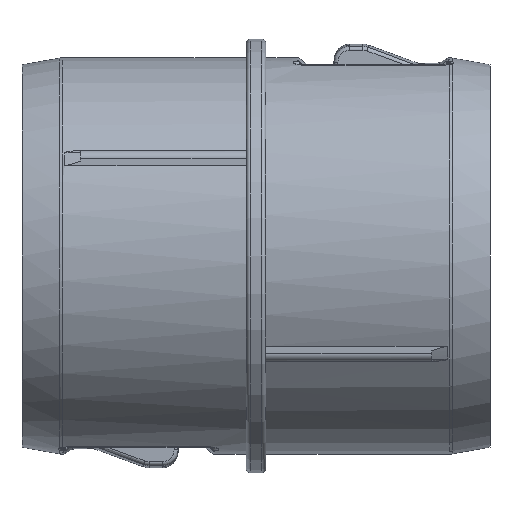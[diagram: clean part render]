
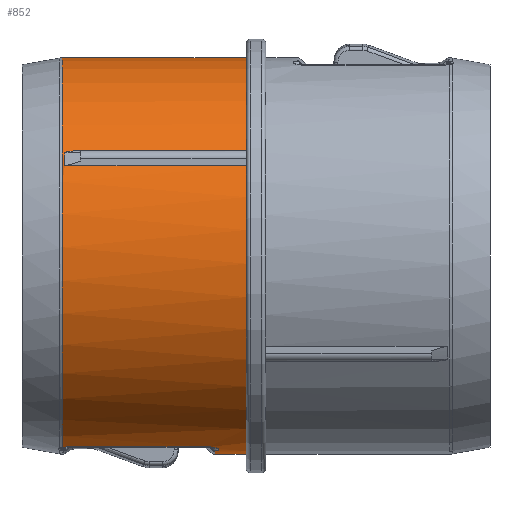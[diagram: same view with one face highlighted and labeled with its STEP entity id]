
A CAD part, front view. The second image highlights one B-rep face of the part: STEP entity #852.
In plain terms, the highlighted cylindrical face has radius 12.7 mm (diameter 25.4 mm), a partial arc.
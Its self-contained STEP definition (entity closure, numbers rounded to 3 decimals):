
#72 = VECTOR ( 'NONE', #1669, 1000. ) ;
#85 = CARTESIAN_POINT ( 'NONE',  ( -2.734, -3.342, -12.253 ) ) ;
#117 = CARTESIAN_POINT ( 'NONE',  ( -4.223, 0., 0. ) ) ;
#260 = ORIENTED_EDGE ( 'NONE', *, *, #6824, .F. ) ;
#310 = CIRCLE ( 'NONE', #6149, 12.7 ) ;
#413 = CARTESIAN_POINT ( 'NONE',  ( -2.46, -2.412, -12.47 ) ) ;
#612 = CARTESIAN_POINT ( 'NONE',  ( -12.25, -10.843, 6.612 ) ) ;
#664 = B_SPLINE_CURVE_WITH_KNOTS ( 'NONE', 3,
 ( #6945, #7684, #85, #807, #3836, #7109, #2121, #413, #8843, #8786 ),
 .UNSPECIFIED., .F., .F.,
 ( 4, 2, 2, 2, 4 ),
 ( 0., 0., 0.001, 0.001, 0.002 ),
 .UNSPECIFIED. ) ;
#692 = CARTESIAN_POINT ( 'NONE',  ( -12.25, -10.843, 6.612 ) ) ;
#745 = DIRECTION ( 'NONE',  ( 1., 0., 0. ) ) ;
#780 = ORIENTED_EDGE ( 'NONE', *, *, #10400, .T. ) ;
#807 = CARTESIAN_POINT ( 'NONE',  ( -2.519, -3.175, -12.297 ) ) ;
#852 = ADVANCED_FACE ( 'NONE', ( #1159 ), #9441, .T. ) ;
#991 = CARTESIAN_POINT ( 'NONE',  ( -5.625, -10.764, 6.74 ) ) ;
#1033 = CARTESIAN_POINT ( 'NONE',  ( -3.005, -3.389, -12.239 ) ) ;
#1159 = FACE_OUTER_BOUND ( 'NONE', #9011, .T. ) ;
#1190 = LINE ( 'NONE', #7180, #1201 ) ;
#1201 = VECTOR ( 'NONE', #3555, 1000. ) ;
#1290 = DIRECTION ( 'NONE',  ( 0., 0., 1. ) ) ;
#1297 = CIRCLE ( 'NONE', #10337, 12.7 ) ;
#1338 = CARTESIAN_POINT ( 'NONE',  ( -0.625, 0., 0. ) ) ;
#1352 = ORIENTED_EDGE ( 'NONE', *, *, #8170, .T. ) ;
#1433 = VECTOR ( 'NONE', #7656, 1000. ) ;
#1436 = ORIENTED_EDGE ( 'NONE', *, *, #9193, .T. ) ;
#1464 = CIRCLE ( 'NONE', #9809, 12.7 ) ;
#1669 = DIRECTION ( 'NONE',  ( -1., 0., 0. ) ) ;
#1940 = VERTEX_POINT ( 'NONE', #6287 ) ;
#2051 = CARTESIAN_POINT ( 'NONE',  ( -4.223, -11.312, 5.773 ) ) ;
#2121 = CARTESIAN_POINT ( 'NONE',  ( -2.372, -2.664, -12.418 ) ) ;
#2154 = AXIS2_PLACEMENT_3D ( 'NONE', #3823, #8893, #1290 ) ;
#2284 = CARTESIAN_POINT ( 'NONE',  ( -0.625, 0., -12.7 ) ) ;
#2329 = CIRCLE ( 'NONE', #2154, 12.7 ) ;
#2353 = B_SPLINE_CURVE_WITH_KNOTS ( 'NONE', 3,
 ( #10622, #8109, #4868, #6443 ),
 .UNSPECIFIED., .F., .F.,
 ( 4, 4 ),
 ( 0.001, 0.002 ),
 .UNSPECIFIED. ) ;
#2515 = CARTESIAN_POINT ( 'NONE',  ( -11.439, -10.764, 6.74 ) ) ;
#2541 = LINE ( 'NONE', #991, #1433 ) ;
#2569 = CARTESIAN_POINT ( 'NONE',  ( -4.223, -3.389, -12.239 ) ) ;
#2597 = ORIENTED_EDGE ( 'NONE', *, *, #8245, .T. ) ;
#2696 = VERTEX_POINT ( 'NONE', #2699 ) ;
#2699 = CARTESIAN_POINT ( 'NONE',  ( -2.659, 0., -12.7 ) ) ;
#2818 = DIRECTION ( 'NONE',  ( -1., 0., 0. ) ) ;
#2950 = CARTESIAN_POINT ( 'NONE',  ( -12.413, 0., 12.7 ) ) ;
#2963 = AXIS2_PLACEMENT_3D ( 'NONE', #117, #6039, #5351 ) ;
#3091 = EDGE_CURVE ( 'NONE', #7441, #8469, #1190, .T. ) ;
#3228 = CARTESIAN_POINT ( 'NONE',  ( -11.58, -10.764, 6.74 ) ) ;
#3230 = DIRECTION ( 'NONE',  ( 1., 0., 0. ) ) ;
#3263 = CARTESIAN_POINT ( 'NONE',  ( -4.223, 0., -12.7 ) ) ;
#3333 = CARTESIAN_POINT ( 'NONE',  ( -12.188, -10.813, 6.662 ) ) ;
#3357 = EDGE_CURVE ( 'NONE', #4410, #2696, #310, .T. ) ;
#3555 = DIRECTION ( 'NONE',  ( -1., 0., 0. ) ) ;
#3812 = VERTEX_POINT ( 'NONE', #8910 ) ;
#3823 = CARTESIAN_POINT ( 'NONE',  ( -0.625, 0., 0. ) ) ;
#3836 = CARTESIAN_POINT ( 'NONE',  ( -2.442, -3.06, -12.327 ) ) ;
#3907 = CARTESIAN_POINT ( 'NONE',  ( -12.25, 0., 0. ) ) ;
#4063 = CARTESIAN_POINT ( 'NONE',  ( -12.104, -10.798, 6.686 ) ) ;
#4384 = VERTEX_POINT ( 'NONE', #2284 ) ;
#4406 = DIRECTION ( 'NONE',  ( 1., 0., 0. ) ) ;
#4410 = VERTEX_POINT ( 'NONE', #8609 ) ;
#4516 = DIRECTION ( 'NONE',  ( 0., 0., -1. ) ) ;
#4561 = VERTEX_POINT ( 'NONE', #5533 ) ;
#4569 = CARTESIAN_POINT ( 'NONE',  ( -12.413, 0., 0. ) ) ;
#4609 = CARTESIAN_POINT ( 'NONE',  ( -0.625, -10.764, 6.74 ) ) ;
#4640 = DIRECTION ( 'NONE',  ( 0., 0., 1. ) ) ;
#4752 = ORIENTED_EDGE ( 'NONE', *, *, #8768, .T. ) ;
#4868 = CARTESIAN_POINT ( 'NONE',  ( -12.156, -3.389, -12.239 ) ) ;
#5351 = DIRECTION ( 'NONE',  ( 0., 0., 1. ) ) ;
#5521 = EDGE_CURVE ( 'NONE', #8114, #4410, #664, .T. ) ;
#5533 = CARTESIAN_POINT ( 'NONE',  ( -0.625, -11.312, 5.773 ) ) ;
#5832 = ORIENTED_EDGE ( 'NONE', *, *, #6328, .T. ) ;
#6039 = DIRECTION ( 'NONE',  ( -1., 0., 0. ) ) ;
#6137 = EDGE_CURVE ( 'NONE', #8219, #1940, #2541, .T. ) ;
#6149 = AXIS2_PLACEMENT_3D ( 'NONE', #10239, #745, #7621 ) ;
#6287 = CARTESIAN_POINT ( 'NONE',  ( -11.439, -10.764, 6.74 ) ) ;
#6318 = LINE ( 'NONE', #2051, #6403 ) ;
#6328 = EDGE_CURVE ( 'NONE', #8469, #3812, #7098, .T. ) ;
#6403 = VECTOR ( 'NONE', #10669, 1000. ) ;
#6443 = CARTESIAN_POINT ( 'NONE',  ( -12.005, -3.389, -12.239 ) ) ;
#6573 = CARTESIAN_POINT ( 'NONE',  ( -12.204, -10.816, 6.655 ) ) ;
#6614 = ORIENTED_EDGE ( 'NONE', *, *, #9772, .F. ) ;
#6726 = CARTESIAN_POINT ( 'NONE',  ( -12.001, -10.785, 6.706 ) ) ;
#6783 = CARTESIAN_POINT ( 'NONE',  ( -12.138, -10.802, 6.678 ) ) ;
#6824 = EDGE_CURVE ( 'NONE', #7404, #4561, #6318, .T. ) ;
#6882 = EDGE_CURVE ( 'NONE', #8219, #7441, #2329, .T. ) ;
#6901 = VERTEX_POINT ( 'NONE', #612 ) ;
#6945 = CARTESIAN_POINT ( 'NONE',  ( -3.005, -3.389, -12.239 ) ) ;
#7007 = CARTESIAN_POINT ( 'NONE',  ( -12.005, -3.389, -12.239 ) ) ;
#7098 = CIRCLE ( 'NONE', #8535, 12.7 ) ;
#7109 = CARTESIAN_POINT ( 'NONE',  ( -2.368, -2.803, -12.387 ) ) ;
#7180 = CARTESIAN_POINT ( 'NONE',  ( -4.223, 0., 12.7 ) ) ;
#7188 = DIRECTION ( 'NONE',  ( 0., 0., -1. ) ) ;
#7250 = DIRECTION ( 'NONE',  ( -1., 0., 0. ) ) ;
#7404 = VERTEX_POINT ( 'NONE', #9294 ) ;
#7441 = VERTEX_POINT ( 'NONE', #9186 ) ;
#7522 = CARTESIAN_POINT ( 'NONE',  ( -12.25, -10.834, 6.627 ) ) ;
#7582 = ORIENTED_EDGE ( 'NONE', *, *, #6882, .T. ) ;
#7621 = DIRECTION ( 'NONE',  ( 0., 0., -1. ) ) ;
#7656 = DIRECTION ( 'NONE',  ( -1., 0., 0. ) ) ;
#7684 = CARTESIAN_POINT ( 'NONE',  ( -2.867, -3.389, -12.239 ) ) ;
#8027 = ORIENTED_EDGE ( 'NONE', *, *, #5521, .T. ) ;
#8079 = VERTEX_POINT ( 'NONE', #7007 ) ;
#8109 = CARTESIAN_POINT ( 'NONE',  ( -12.302, -3.331, -12.256 ) ) ;
#8114 = VERTEX_POINT ( 'NONE', #1033 ) ;
#8170 = EDGE_CURVE ( 'NONE', #7404, #6901, #1464, .T. ) ;
#8201 = VECTOR ( 'NONE', #3230, 1000. ) ;
#8219 = VERTEX_POINT ( 'NONE', #4609 ) ;
#8245 = EDGE_CURVE ( 'NONE', #6901, #1940, #10207, .T. ) ;
#8469 = VERTEX_POINT ( 'NONE', #2950 ) ;
#8535 = AXIS2_PLACEMENT_3D ( 'NONE', #4569, #4406, #4516 ) ;
#8609 = CARTESIAN_POINT ( 'NONE',  ( -2.659, -2.221, -12.504 ) ) ;
#8768 = EDGE_CURVE ( 'NONE', #4384, #4561, #1297, .T. ) ;
#8786 = CARTESIAN_POINT ( 'NONE',  ( -2.659, -2.221, -12.504 ) ) ;
#8843 = CARTESIAN_POINT ( 'NONE',  ( -2.545, -2.298, -12.491 ) ) ;
#8893 = DIRECTION ( 'NONE',  ( -1., 0., 0. ) ) ;
#8910 = CARTESIAN_POINT ( 'NONE',  ( -12.413, -3.235, -12.281 ) ) ;
#9011 = EDGE_LOOP ( 'NONE', ( #6614, #4752, #260, #1352, #2597, #10326, #7582, #9691, #5832, #780, #1436, #8027, #10316 ) ) ;
#9186 = CARTESIAN_POINT ( 'NONE',  ( -0.625, 0., 12.7 ) ) ;
#9193 = EDGE_CURVE ( 'NONE', #8079, #8114, #9303, .T. ) ;
#9294 = CARTESIAN_POINT ( 'NONE',  ( -12.25, -11.312, 5.773 ) ) ;
#9303 = LINE ( 'NONE', #2569, #8201 ) ;
#9441 = CYLINDRICAL_SURFACE ( 'NONE', #2963, 12.7 ) ;
#9691 = ORIENTED_EDGE ( 'NONE', *, *, #3091, .T. ) ;
#9772 = EDGE_CURVE ( 'NONE', #4384, #2696, #10229, .T. ) ;
#9809 = AXIS2_PLACEMENT_3D ( 'NONE', #3907, #7250, #7188 ) ;
#9980 = CARTESIAN_POINT ( 'NONE',  ( -11.932, -10.78, 6.715 ) ) ;
#10128 = CARTESIAN_POINT ( 'NONE',  ( -11.722, -10.767, 6.735 ) ) ;
#10207 = B_SPLINE_CURVE_WITH_KNOTS ( 'NONE', 3,
 ( #692, #7522, #10959, #6573, #3333, #6783, #4063, #6726, #9980, #10128, #3228, #2515 ),
 .UNSPECIFIED., .F., .F.,
 ( 4, 2, 2, 2, 2, 4 ),
 ( 0., 0., 0., 0., 0., 0.001 ),
 .UNSPECIFIED. ) ;
#10229 = LINE ( 'NONE', #3263, #72 ) ;
#10239 = CARTESIAN_POINT ( 'NONE',  ( -2.659, 0., 0. ) ) ;
#10316 = ORIENTED_EDGE ( 'NONE', *, *, #3357, .T. ) ;
#10326 = ORIENTED_EDGE ( 'NONE', *, *, #6137, .F. ) ;
#10337 = AXIS2_PLACEMENT_3D ( 'NONE', #1338, #2818, #4640 ) ;
#10400 = EDGE_CURVE ( 'NONE', #3812, #8079, #2353, .T. ) ;
#10622 = CARTESIAN_POINT ( 'NONE',  ( -12.413, -3.235, -12.281 ) ) ;
#10669 = DIRECTION ( 'NONE',  ( 1., 0., 0. ) ) ;
#10959 = CARTESIAN_POINT ( 'NONE',  ( -12.234, -10.827, 6.639 ) ) ;
